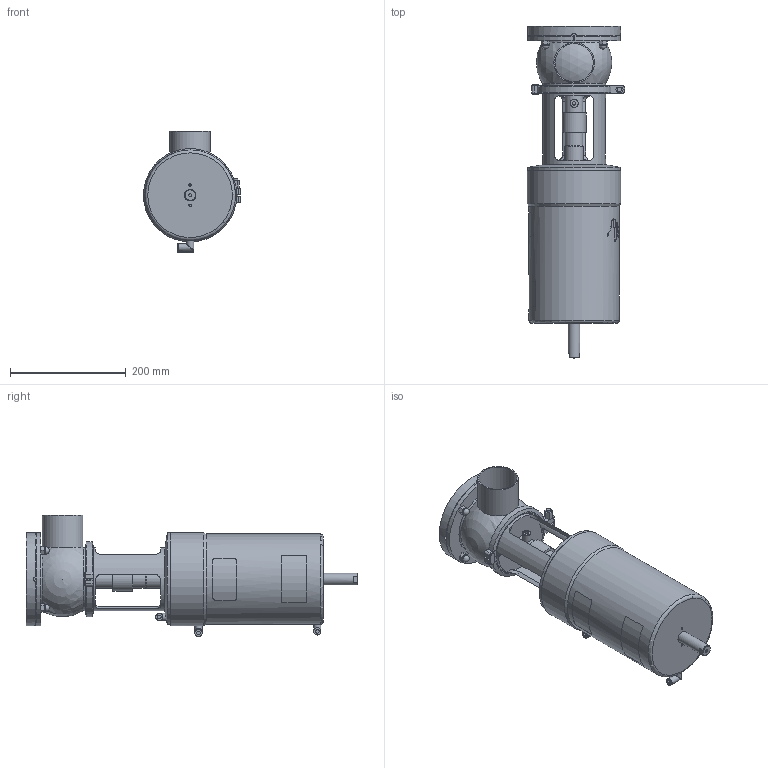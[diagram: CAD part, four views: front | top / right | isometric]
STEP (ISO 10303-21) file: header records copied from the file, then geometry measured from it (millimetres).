
FILE_DESCRIPTION (( 'STEP AP214' ), '1' );
FILE_NAME ('INNOVA T L W DIN 065 WITH FLANGE_10.252.16.0005.STEP', '2024-08-21T11:28:41', ( '' ), ( '' ), 'SwSTEP 2.0', 'SolidWorks 2023', '' );
FILE_SCHEMA (( 'AUTOMOTIVE_DESIGN' ));
Length unit declared in the file: millimetre
Products named in the file (6): 10.250.15.0002_Type T T2; INNOVA T L W DIN 065 WITH FLANGE_10.252.16.0005; 10.248.15.0003_DIN 065 _ OD 2½"; 10.240.15.0001_DN 065; 10.252.15.0001_DIN 065; 10.240.15.0006_DIN 065
Assembly tree (5 placements, depth 2):
  INNOVA T L W DIN 065 WITH FLANGE_10.252.16.0005
    10.240.15.0006_DIN 065
    10.248.15.0003_DIN 065 _ OD 2½"
    10.252.15.0001_DIN 065
    10.250.15.0002_Type T T2
    10.240.15.0001_DN 065
Bounding box: 167.5 x 572.33 x 209 mm (x, y, z)
Volume: 7106191.4 mm3; surface area: 470790.6 mm2
Topology: 5 solids, 5 shells, 419 faces, 1094 edges, 715 vertices
Faces by surface type: plane 199, cylinder 110, bspline 82, cone 21, sphere 6, torus 1
Full cylindrical faces by diameter (mm): 4.2 x2, 5 x1, 6 x1, 6.15 x3, 8 x2, 10.5 x3, 12 x1, 12.5 x13, 14 x2, 20 x1, 30.5 x2, 32 x1, 41 x1, 66 x1, 70 x1, 109 x3, 110 x1, 121 x3, 132 x1, 156 x1, 160 x1, 161 x1
Entity records: 24029 total; most frequent: CARTESIAN_POINT 12886, ORIENTED_EDGE 1980, DIRECTION 1593, EDGE_CURVE 990, VERTEX_POINT 686, AXIS2_PLACEMENT_3D 597, EDGE_LOOP 534, FACE_OUTER_BOUND 469
